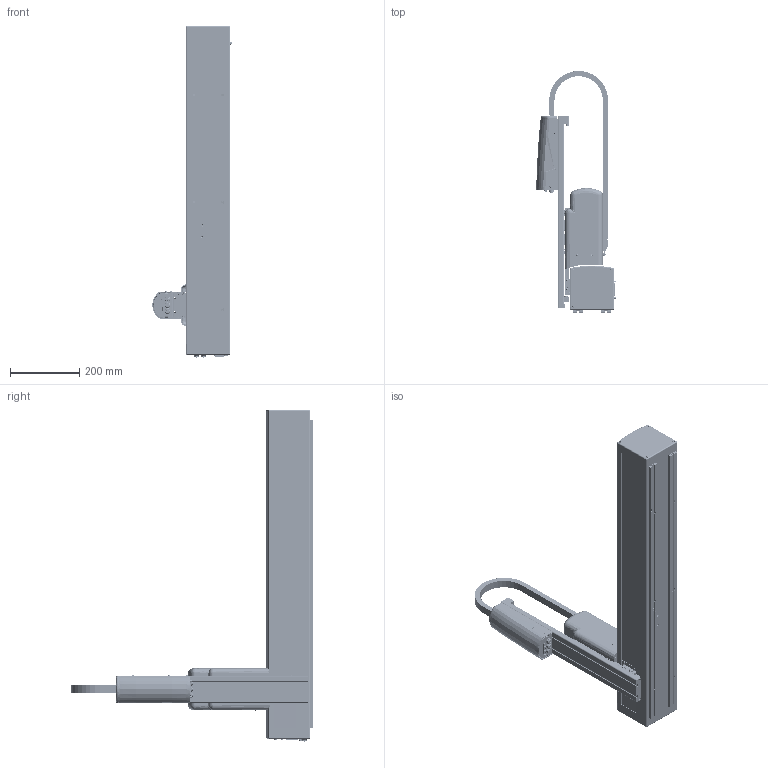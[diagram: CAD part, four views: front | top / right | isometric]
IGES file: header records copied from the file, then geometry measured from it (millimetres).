
Start section: SolidWorks IGES file using analytic representation for surfaces
Global section: file name: C:\Users\paul\Desktop\IGES CHECK\Assy_Main_685mm_X_by_229mm_Z_NoGrip_ProdA_PP00_ShellEXT_021916_IGES.IGS; native system: SolidWorks 2015; preprocessor: SolidWorks 2015; author: paul; date: 160219.204740; units: millimetre
Bounding box: 228.36 x 696.8 x 956.47 mm (x, y, z)
Surface area: 2679307.8 mm2 (no closed solid volume)
Topology: 0 solids, 0 shells, 15484 faces, 164582 edges, 164383 vertices
Faces by surface type: bspline 9636, revolution 5848
